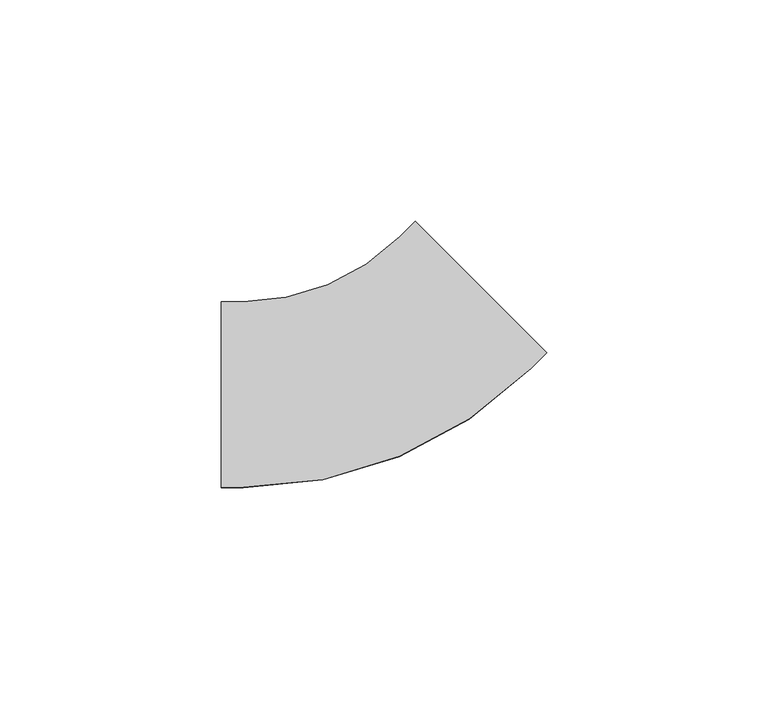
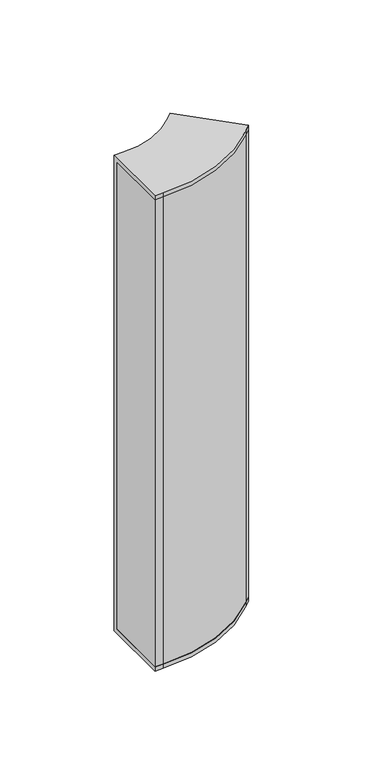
"""IFC4 building model written with IfcOpenShell, lengths in millimetres: cable carrier fitting geometry, BAKS_Vertical bend LU : LUNJ/LUMNJ_H42."""

import ifcopenshell
import ifcopenshell.guid

model = None  # the IFC model being written
_history = None  # IfcOwnerHistory: only IFC2X3 demands one
_inside = {}  # id of a spatial element -> (the spatial element, [elements in it])
_under = {}  # id of a project, library or spatial element -> (it, [spatial elements below it])
_declared = {}  # id of a project -> (the project, [libraries it declares])
_typed = {}  # id of a type object -> (the type object, [elements of that type])
_made_of = {}  # id of a material, layer set ... -> (it, [elements and type objects made of it])


def new_model(schema):
    """Start an empty IFC model of exactly this schema.

    Asked for "IFC4X3", IfcOpenShell would pick the latest addendum, in which some entities
    have other attributes; the version numbers below select the first issue.
    IFC2X3 requires an IfcOwnerHistory on every rooted entity: one is made here for all.
    """
    global model, _history
    if schema == "IFC4X3":
        model = ifcopenshell.file(schema_version=(4, 3, 0, 0))
    else:
        model = ifcopenshell.file(schema=schema)
    _inside.clear()
    _under.clear()
    _declared.clear()
    _typed.clear()
    _made_of.clear()
    _history = None
    if model.schema == "IFC2X3":
        org = make("IfcOrganization", Name="unknown")
        user = make(
            "IfcPersonAndOrganization",
            ThePerson=make("IfcPerson", FamilyName="unknown"),
            TheOrganization=org,
        )
        app = make(
            "IfcApplication",
            ApplicationDeveloper=org,
            Version="unknown",
            ApplicationFullName="unknown",
            ApplicationIdentifier="unknown",
        )
        _history = make(
            "IfcOwnerHistory",
            OwningUser=user,
            OwningApplication=app,
            ChangeAction="ADDED",
            CreationDate=0,
        )
    return model


def make(cls, **values):
    """One entity of the class cls with the attributes given. An attribute that is None is left unset."""
    return model.create_entity(
        cls, **{name: value for name, value in values.items() if value is not None}
    )


def rooted(cls, **values):
    """An entity with a GlobalId (a new one), such as an element, a storey or a relation."""
    return make(cls, GlobalId=ifcopenshell.guid.new(), OwnerHistory=_history, **values)


def si_unit(unit_type, name, prefix=None):
    """IfcSIUnit, for example si_unit("LENGTHUNIT", "METRE", prefix="MILLI")."""
    return make("IfcSIUnit", UnitType=unit_type, Prefix=prefix, Name=name)


def assignment(units):
    """IfcUnitAssignment: the units of a project."""
    return None if units is None else make("IfcUnitAssignment", Units=units)


def point(xyz):
    """IfcCartesianPoint."""
    return None if xyz is None else make("IfcCartesianPoint", Coordinates=xyz)


def direction(xyz):
    """IfcDirection."""
    return None if xyz is None else make("IfcDirection", DirectionRatios=xyz)


def frame(location, z_axis=None, x_axis=None):
    """IfcAxis2Placement3D, a coordinate frame: its origin and axes. An axis left out is left unset."""
    return make(
        "IfcAxis2Placement3D",
        Location=point(location),
        Axis=direction(z_axis),
        RefDirection=direction(x_axis),
    )


def frame_2d(location, x_axis=None):
    """IfcAxis2Placement2D, a coordinate frame in the plane: its origin and x axis."""
    return make(
        "IfcAxis2Placement2D", Location=point(location), RefDirection=direction(x_axis)
    )


def origin():
    """The frame at (0, 0, 0) with its axes left unset."""
    return frame((0.0, 0.0, 0.0))


def place(relative_to, where):
    """IfcLocalPlacement: puts the frame where relative to a parent placement (None: the world)."""
    return make(
        "IfcLocalPlacement", PlacementRelTo=relative_to, RelativePlacement=where
    )


def context(
    kind, dimensions, precision=None, world=None, true_north=None, identifier=None
):
    """IfcGeometricRepresentationContext, for example the 3D "Model" context."""
    return make(
        "IfcGeometricRepresentationContext",
        ContextIdentifier=identifier,
        ContextType=kind,
        CoordinateSpaceDimension=dimensions,
        Precision=precision,
        WorldCoordinateSystem=world,
        TrueNorth=true_north,
    )


def project(units=None, contexts=None):
    """IfcProject with its units and contexts."""
    return rooted(
        "IfcProject",
        Name="project",
        RepresentationContexts=contexts,
        UnitsInContext=assignment(units),
    )


def spatial(cls, under=None, at=None, **own):
    """A site, building, storey or space (cls), placed at a placement, below another one or the project."""
    s = rooted(cls, ObjectPlacement=at, **own)
    if under is not None:
        _under.setdefault(under.id(), (under, []))[1].append(s)
    return s


def polyline(points):
    """IfcPolyline through the points."""
    return make("IfcPolyline", Points=[point(p) for p in points])


def circle_curve(where, radius):
    """IfcCircle in the frame where."""
    return make("IfcCircle", Position=where, Radius=radius)


def trimmed(basis, trim1, trim2, sense, master):
    """IfcTrimmedCurve: the piece of a basis curve between two trims."""
    return make(
        "IfcTrimmedCurve",
        BasisCurve=basis,
        Trim1=trim1,
        Trim2=trim2,
        SenseAgreement=sense,
        MasterRepresentation=master,
    )


def segment(curve, same_sense, transition):
    """IfcCompositeCurveSegment."""
    return make(
        "IfcCompositeCurveSegment",
        Transition=transition,
        SameSense=same_sense,
        ParentCurve=curve,
    )


def composite_curve(segments, self_intersect=None):
    """IfcCompositeCurve: segments joined end to end."""
    return make("IfcCompositeCurve", Segments=segments, SelfIntersect=self_intersect)


def outline(outer, holes=None, kind="AREA"):
    """IfcArbitraryClosedProfileDef: a profile drawn as a closed curve; with holes, ...WithVoids."""
    if holes is None:
        return make("IfcArbitraryClosedProfileDef", ProfileType=kind, OuterCurve=outer)
    return make(
        "IfcArbitraryProfileDefWithVoids",
        ProfileType=kind,
        OuterCurve=outer,
        InnerCurves=holes,
    )


def extrude(swept, where, along, depth):
    """IfcExtrudedAreaSolid: the profile swept, set in the frame where, extruded along a direction by depth."""
    return make(
        "IfcExtrudedAreaSolid",
        SweptArea=swept,
        Position=where,
        ExtrudedDirection=direction(along),
        Depth=depth,
    )


def shape(context_of_items, identifier, shape_type, items):
    """IfcShapeRepresentation: the items that make up one representation, for example the "Body"."""
    return make(
        "IfcShapeRepresentation",
        ContextOfItems=context_of_items,
        RepresentationIdentifier=identifier,
        RepresentationType=shape_type,
        Items=items,
    )


def source(mapping_origin, context_of_items, identifier, shape_type, items):
    """IfcRepresentationMap: a shape defined once, which mapped items show again and again."""
    return make(
        "IfcRepresentationMap",
        MappingOrigin=mapping_origin,
        MappedRepresentation=shape(context_of_items, identifier, shape_type, items),
    )


def transform(
    local_origin,
    x_axis=None,
    y_axis=None,
    z_axis=None,
    scale=None,
    scale2=None,
    scale3=None,
    uniform=True,
):
    """IfcCartesianTransformationOperator3D, or its non-uniform kind. x_axis, y_axis, z_axis: its Axis1, 2, 3."""
    if uniform:
        return make(
            "IfcCartesianTransformationOperator3D",
            Axis1=direction(x_axis),
            Axis2=direction(y_axis),
            LocalOrigin=point(local_origin),
            Scale=scale,
            Axis3=direction(z_axis),
        )
    return make(
        "IfcCartesianTransformationOperator3DnonUniform",
        Axis1=direction(x_axis),
        Axis2=direction(y_axis),
        LocalOrigin=point(local_origin),
        Scale=scale,
        Axis3=direction(z_axis),
        Scale2=scale2,
        Scale3=scale3,
    )


def mapped(mapping_source, mapping_target):
    """IfcMappedItem: shows the shape of a source again, moved by a transform."""
    return make(
        "IfcMappedItem", MappingSource=mapping_source, MappingTarget=mapping_target
    )


def made_of(thing, what):
    """Note that an element or type object is made of a material, layer set ...; save() writes the relation."""
    if what is not None:
        _made_of.setdefault(what.id(), (what, []))[1].append(thing)
    return thing


def element(
    cls,
    number,
    at=None,
    inside=None,
    cuts=None,
    type_object=None,
    material=None,
    context=None,
    identifier="Body",
    shape_type=None,
    held_by="IfcProductDefinitionShape",
    body=None,
    shapes=None,
    **own,
):
    """One element of the class cls, such as IfcWall. Its Tag is "e" and its number.

    at: its placement. inside: the storey or other place that contains it. cuts: it is an
    opening in that element (IfcRelVoidsElement). A single representation is given by context,
    identifier, shape_type and body (its items); several are given by shapes. held_by: the class
    of the entity that holds the representations. save() writes the other relations.
    """
    e = rooted(cls, Tag="e%d" % number, ObjectPlacement=at, **own)
    if body is not None:
        shapes = [shape(context, identifier, shape_type, body)]
    if shapes is not None:
        e.Representation = make(held_by, Representations=shapes)
    if inside is not None:
        _inside.setdefault(inside.id(), (inside, []))[1].append(e)
    if cuts is not None:
        rooted(
            "IfcRelVoidsElement", RelatingBuildingElement=cuts, RelatedOpeningElement=e
        )
    if type_object is not None:
        _typed.setdefault(type_object.id(), (type_object, []))[1].append(e)
    return made_of(e, material)


def aggregate(whole, parts):
    """IfcRelAggregates: a whole, such as a stair, and the parts it consists of."""
    return rooted("IfcRelAggregates", RelatingObject=whole, RelatedObjects=parts)


def save(model, path):
    """Write the relations noted so far, then the file.

    IfcRelAggregates (storeys below a building ...), IfcRelContainedInSpatialStructure (elements
    in a storey), IfcRelDefinesByType, IfcRelAssociatesMaterial and IfcRelDeclares: one each for
    every whole, place, type object, material and project.
    """
    for whole, parts in _under.values():
        aggregate(whole, parts)
    for where, things in _inside.values():
        rooted(
            "IfcRelContainedInSpatialStructure",
            RelatedElements=things,
            RelatingStructure=where,
        )
    for kind, things in _typed.values():
        rooted("IfcRelDefinesByType", RelatedObjects=things, RelatingType=kind)
    for what, things in _made_of.values():
        rooted("IfcRelAssociatesMaterial", RelatedObjects=things, RelatingMaterial=what)
    for by, libraries in _declared.values():
        rooted("IfcRelDeclares", RelatingContext=by, RelatedDefinitions=libraries)
    model.write(path)


def plane_surface(at):
    """IfcPlane: the flat surface through the origin of the frame at, square to its z axis."""
    return make("IfcPlane", Position=at)


def cylinder_surface(at, radius):
    """IfcCylindricalSurface: all points at the distance radius from the z axis of the frame at."""
    return make("IfcCylindricalSurface", Position=at, Radius=radius)


def revolved_surface(curve, axis_point, axis_direction):
    """IfcSurfaceOfRevolution: the curve turned about the line through axis_point along axis_direction."""
    return make(
        "IfcSurfaceOfRevolution",
        SweptCurve=make("IfcArbitraryOpenProfileDef", ProfileType="CURVE", Curve=curve),
        AxisPosition=make("IfcAxis1Placement", Location=point(axis_point), Axis=direction(axis_direction)),
    )


def advanced_brep(points, edges, surfaces, faces):
    """IfcAdvancedBrep: a solid bounded by faces that lie on surfaces and meet in shared edges.

    An edge is (start, end): straight between two places in points (the first is 0);
    or (start, end, curve); or (start, end, curve, False) where it runs against its curve.
    A face is (place in surfaces, loops), or (place, loops, False) where it looks against
    its surface's normal. A loop lists edges by number (the first is 1), with a minus sign
    where the edge is run from its end to its start. The first loop is the outer one.
    """
    corners = [point(p) for p in points]
    vertices = [make("IfcVertexPoint", VertexGeometry=c) for c in corners]
    made = []
    for start, end, *more in edges:
        made.append(
            make(
                "IfcEdgeCurve",
                EdgeStart=vertices[start],
                EdgeEnd=vertices[end],
                EdgeGeometry=more[0] if more else make("IfcPolyline", Points=[corners[start], corners[end]]),
                SameSense=more[1] if len(more) > 1 else True,
            )
        )
    hull = []
    for where, loops, *sense in faces:
        bounds = []
        for j, loop in enumerate(loops):
            ring = [make("IfcOrientedEdge", EdgeElement=made[abs(k) - 1], Orientation=k > 0) for k in loop]
            bounds.append(
                make(
                    "IfcFaceOuterBound" if j == 0 else "IfcFaceBound",
                    Bound=make("IfcEdgeLoop", EdgeList=ring),
                    Orientation=True,
                )
            )
        hull.append(make("IfcAdvancedFace", Bounds=bounds, FaceSurface=surfaces[where], SameSense=sense[0] if sense else True))
    return make("IfcAdvancedBrep", Outer=make("IfcClosedShell", CfsFaces=hull))


def cable_carrier_fitting_2d1b2b1b(model_context):
    return source(origin(), model_context, "Body", "SolidModel", [
        advanced_brep(
        [(-34.4091629, -21.0, 150.0), (-34.4091629, 21.0, 150.0), (-34.4091629, 21.0, -150.0), (-34.4091629, -21.0, -150.0), (-34.4091629, -21.0, -147.46), (-34.4091629, 18.46, -147.46), (-34.4091629, 18.46, 147.46), (-34.4091629, -21.0, 147.46), (39.1801948, 9.48171, 150.0), (39.1801948, 9.48171, 147.46), (11.2777613, 37.3841436, 147.46), (11.2777613, 37.3841436, -147.46), (39.1801948, 9.48171, -147.46), (39.1801948, 9.48171, -150.0), (9.48171, 39.1801948, -150.0), (9.48171, 39.1801948, 150.0), (-29.4091629, -21.0, 150.0), (35.6446609, 5.9461761, 150.0), (5.9461761, 35.6446609, 150.0), (-29.4091629, 21.0, 150.0), (-29.4091629, 21.0, -150.0), (5.9461761, 35.6446609, -150.0), (35.6446609, 5.9461761, -150.0), (-29.4091629, -21.0, -150.0), (-29.4091629, -21.0, -147.46), (35.6446609, 5.9461761, -147.46), (7.7422273, 33.8486097, -147.46), (-29.4091629, 18.46, -147.46), (-29.4091629, 18.46, 147.46), (7.7422273, 33.8486097, 147.46), (35.6446609, 5.9461761, 147.46), (-29.4091629, -21.0, 147.46)],
        [
            (0, 1),
            (1, 2),
            (2, 3),
            (3, 4),
            (4, 5),
            (5, 6),
            (6, 7),
            (7, 0),
            (8, 9),
            (9, 10),
            (10, 11),
            (11, 12),
            (12, 13),
            (13, 14),
            (14, 15),
            (15, 8),
            (0, 16),
            (16, 17, circle_curve(frame((-29.4091629, 71.0, 150.0), z_axis=(0.0, 0.0, 1.0), x_axis=(0.0, -1.0, 0.0)), 92.0)),
            (17, 8),
            (15, 18),
            (18, 19, circle_curve(frame((-29.4091629, 71.0, 150.0), z_axis=(0.0, 0.0, -1.0), x_axis=(0.0, -1.0, 0.0)), 50.0)),
            (19, 1),
            (19, 20),
            (20, 2),
            (20, 21, circle_curve(frame((-29.4091629, 71.0, -150.0), z_axis=(0.0, 0.0, 1.0), x_axis=(0.0, -1.0, 0.0)), 50.0)),
            (21, 14),
            (13, 22),
            (22, 23, circle_curve(frame((-29.4091629, 71.0, -150.0), z_axis=(0.0, 0.0, -1.0), x_axis=(0.0, -1.0, 0.0)), 92.0)),
            (23, 3),
            (23, 24),
            (24, 4),
            (24, 25, circle_curve(frame((-29.4091629, 71.0, -147.46), z_axis=(0.0, 0.0, 1.0), x_axis=(0.0, -1.0, 0.0)), 92.0)),
            (25, 12),
            (11, 26),
            (26, 27, circle_curve(frame((-29.4091629, 71.0, -147.46), z_axis=(0.0, 0.0, -1.0), x_axis=(0.0, -1.0, 0.0)), 52.54)),
            (27, 5),
            (27, 28),
            (28, 6),
            (28, 29, circle_curve(frame((-29.4091629, 71.0, 147.46), z_axis=(0.0, 0.0, 1.0), x_axis=(0.0, -1.0, 0.0)), 52.54)),
            (29, 10),
            (9, 30),
            (30, 31, circle_curve(frame((-29.4091629, 71.0, 147.46), z_axis=(0.0, 0.0, -1.0), x_axis=(0.0, -1.0, 0.0)), 92.0)),
            (31, 7),
            (31, 16),
            (18, 21),
            (22, 25),
            (26, 29),
            (30, 17),
        ],
        [
            plane_surface(frame((-34.4091629, 0.0, 0.0), z_axis=(-1.0, 0.0, 0.0), x_axis=(0.0, 0.0, 1.0))),
            plane_surface(frame((24.3309524, 24.3309524, 0.0), z_axis=(0.7071067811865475, 0.7071067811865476, 0.0), x_axis=(0.0, 0.0, 1.0))),
            plane_surface(frame((-34.4091629, -21.0, 150.0), z_axis=(0.0, 0.0, 1.0), x_axis=(1.0, 0.0, 0.0))),
            plane_surface(frame((-34.4091629, 21.0, 150.0), z_axis=(0.0, 1.0, 0.0), x_axis=(1.0, 0.0, 0.0))),
            plane_surface(frame((-34.4091629, 21.0, -150.0), z_axis=(0.0, 0.0, -1.0), x_axis=(1.0, 0.0, 0.0))),
            plane_surface(frame((-34.4091629, -21.0, -150.0), z_axis=(0.0, -1.0, 0.0), x_axis=(1.0, 0.0, 0.0))),
            plane_surface(frame((-34.4091629, -21.0, -147.46), z_axis=(0.0, 0.0, 1.0), x_axis=(1.0, 0.0, 0.0))),
            plane_surface(frame((-34.4091629, 18.46, -147.46), z_axis=(0.0, -1.0, 0.0), x_axis=(1.0, 0.0, 0.0))),
            plane_surface(frame((-34.4091629, 18.46, 147.46), z_axis=(0.0, 0.0, -1.0), x_axis=(1.0, 0.0, 0.0))),
            plane_surface(frame((-34.4091629, -21.0, 147.46), z_axis=(0.0, -1.0, 0.0), x_axis=(1.0, 0.0, 0.0))),
            revolved_surface(polyline([(-29.4091629, 21.0, 150.0), (-29.4091629, 21.0, -150.0)]), (-29.4091629, 71.0, 0.0), (0.0, 0.0, 1.0)),
            cylinder_surface(frame((-29.4091629, 71.0, 0.0), z_axis=(0.0, 0.0, 1.0), x_axis=(0.0, -1.0, 0.0)), 92.0),
            cylinder_surface(frame((-29.4091629, 71.0, 0.0), z_axis=(0.0, 0.0, 1.0), x_axis=(0.0, -1.0, 0.0)), 52.54),
            plane_surface(frame((5.9461761, 35.6446609, 150.0), z_axis=(-0.7071067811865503, 0.7071067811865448, 0.0), x_axis=(0.7071067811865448, 0.7071067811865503, 0.0))),
            plane_surface(frame((35.6446609, 5.9461761, -150.0), z_axis=(0.7071067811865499, -0.7071067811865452, 0.0), x_axis=(0.7071067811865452, 0.7071067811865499, 0.0))),
            plane_surface(frame((7.7422273, 33.8486097, -147.46), z_axis=(0.7071067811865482, -0.7071067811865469, 0.0), x_axis=(0.7071067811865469, 0.7071067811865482, 0.0))),
            plane_surface(frame((35.6446609, 5.9461761, 147.46), z_axis=(0.7071067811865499, -0.7071067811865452, 0.0), x_axis=(0.7071067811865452, 0.7071067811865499, 0.0))),
        ],
        [
            (0, [[1, 2, 3, 4, 5, 6, 7, 8]]),
            (1, [[9, 10, 11, 12, 13, 14, 15, 16]]),
            (2, [[-1, 17, 18, 19, -16, 20, 21, 22]]),
            (3, [[-2, -22, 23, 24]]),
            (4, [[-3, -24, 25, 26, -14, 27, 28, 29]]),
            (5, [[-4, -29, 30, 31]]),
            (6, [[-5, -31, 32, 33, -12, 34, 35, 36]]),
            (7, [[-6, -36, 37, 38]]),
            (8, [[-7, -38, 39, 40, -10, 41, 42, 43]]),
            (9, [[-8, -43, 44, -17]]),
            (10, [[-25, -23, -21, 45]]),
            (11, [[-32, -30, -28, 46]]),
            (12, [[-39, -37, -35, 47]]),
            (11, [[-18, -44, -42, 48]]),
            (13, [[-45, -20, -15, -26]]),
            (14, [[-46, -27, -13, -33]]),
            (15, [[-47, -34, -11, -40]]),
            (16, [[-48, -41, -9, -19]]),
        ],
    ),
        extrude(outline(composite_curve([segment(polyline([(-34.4091629, -21.0), (-34.4091629, 21.0), (-29.4091629, 21.0)]), True, "CONTINUOUS"), segment(trimmed(circle_curve(frame_2d((-29.4091629, 71.0)), 50.0), [point((-29.4091629, 21.0))], [point((5.9461761, 35.6446609))], True, "CARTESIAN"), True, "CONTINUOUS"), segment(polyline([(5.9461761, 35.6446609), (9.48171, 39.1801948), (39.1801948, 9.48171), (35.6446609, 5.9461761)]), True, "CONTINUOUS"), segment(trimmed(circle_curve(frame_2d((-29.4091629, 71.0)), 92.0), [point((35.6446609, 5.9461761))], [point((-29.4091629, -21.0))], False, "CARTESIAN"), True, "CONTINUOUS"), segment(polyline([(-29.4091629, -21.0), (-34.4091629, -21.0)]), True, "CONTINUOUS")], self_intersect=False)), frame((0.0, 0.0, -150.0), z_axis=(0.0, 0.0, 1.0), x_axis=(1.0, 0.0, 0.0)), (0.0, 0.0, 1.0), 300.0),
    ])


if __name__ == "__main__":
    model = new_model("IFC4")
    model_context = context("Model", 3, world=origin())
    ifc_project = project(units=[si_unit("LENGTHUNIT", "METRE", prefix="MILLI")], contexts=[model_context])
    site = spatial("IfcSite", under=ifc_project)
    building = spatial("IfcBuilding", under=site)
    placement = place(None, origin())
    cable_carrier_fitting_shape = cable_carrier_fitting_2d1b2b1b(model_context)
    element("IfcCableCarrierFitting", 1, ObjectType="BAKS_Vertical bend LU : LUNJ/LUMNJ_H42", at=placement, inside=building, context=model_context, shape_type="MappedRepresentation", body=[
        mapped(cable_carrier_fitting_shape, transform((0.0, 0.0, 0.0), x_axis=(1.0, 0.0, 0.0), y_axis=(0.0, 1.0, 0.0), z_axis=(0.0, 0.0, 1.0))),
    ])
    save(model, "model.ifc")
